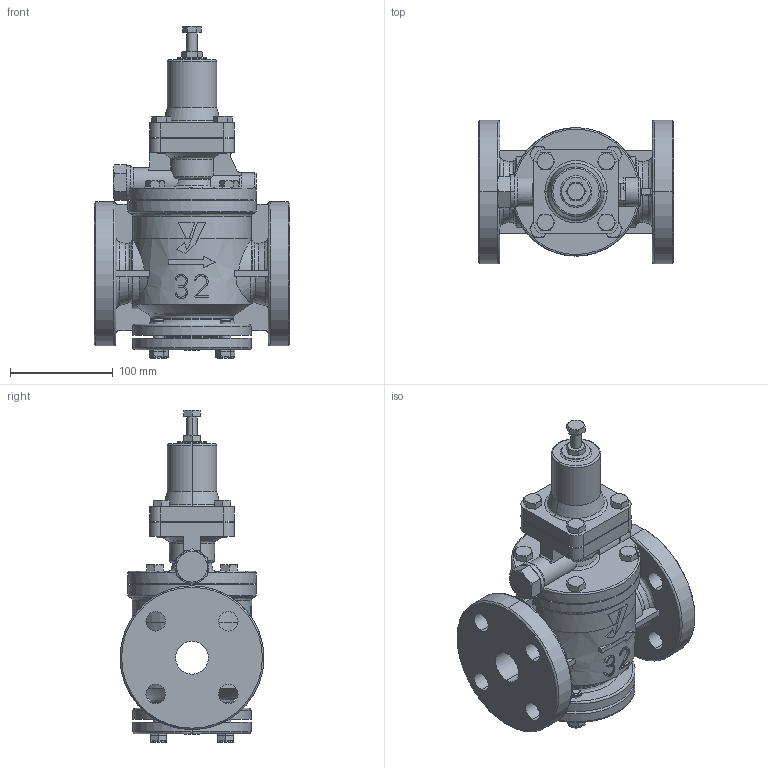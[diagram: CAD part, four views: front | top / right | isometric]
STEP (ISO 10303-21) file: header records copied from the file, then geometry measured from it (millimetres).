
FILE_DESCRIPTION( (''), '2;1');
FILE_NAME ('PC1015.12936.GP-1000(32A)JIS10K3D_26884.stp','2024-08-05T09:27:42',(''),(''),'spGate 19.8.4 (****-****-****-****)','','');
FILE_SCHEMA (('AUTOMOTIVE_DESIGN'));
Length unit declared in the file: millimetre
Products named in the file (6): Assembly; GP-1000 32A_1; CP_''_JIS B 1180 呼び径六角ボルト''_17166; CP_''_JIS B 1181 六角ナット 3種 上 ''_701; CP_''_JIS B 1180 呼び径六角ボ''_(1)_17166; CP_''_JIS B 1180 呼び径六角ボ''_(3)_17166
Assembly tree (20 placements, depth 2):
  Assembly
    GP-1000 32A_1
    CP_''_JIS B 1180 呼び径六角ボルト''_17166  x16
    CP_''_JIS B 1181 六角ナット 3種 上 ''_701
    CP_''_JIS B 1180 呼び径六角ボ''_(1)_17166
    CP_''_JIS B 1180 呼び径六角ボ''_(3)_17166
Bounding box: 190 x 140 x 323 mm (x, y, z)
Volume: 2672173.5 mm3; surface area: 279491.6 mm2
Topology: 20 solids, 20 shells, 754 faces, 1764 edges, 1098 vertices
Faces by surface type: plane 312, bspline 289, cylinder 153
Entity records: 22982 total; most frequent: CARTESIAN_POINT 6182, ORIENTED_EDGE 2028, DIRECTION 1579, COLOUR_RGB 1413, PRESENTATION_STYLE_ASSIGNMENT 1413, STYLED_ITEM 1413, EDGE_CURVE 1014, DRAUGHTING_PRE_DEFINED_CURVE_FONT 1014
